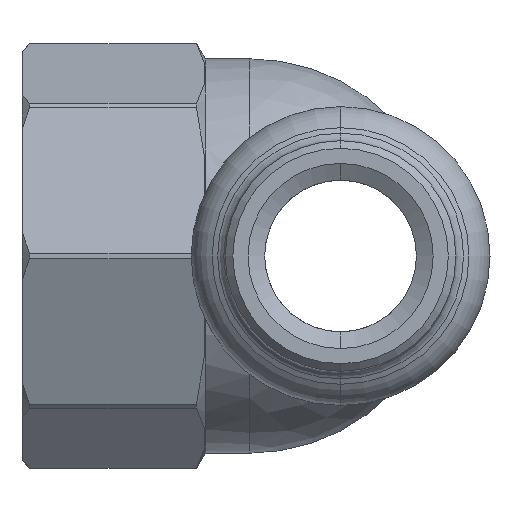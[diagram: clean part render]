
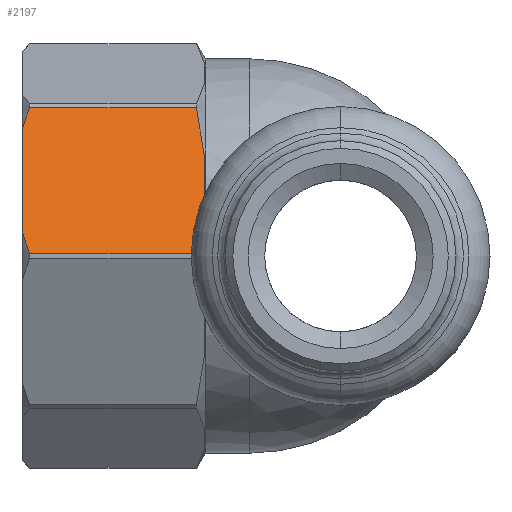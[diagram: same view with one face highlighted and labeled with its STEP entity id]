
A CAD part, left-side view. The second image highlights one B-rep face of the part: STEP entity #2197.
In plain terms, the highlighted planar face has unit normal (-0.924, 0, 0.383).
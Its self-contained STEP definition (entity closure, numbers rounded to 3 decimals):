
#10 = VERTEX_POINT ( 'NONE', #1464 ) ;
#100 = ORIENTED_EDGE ( 'NONE', *, *, #4082, .F. ) ;
#170 = EDGE_CURVE ( 'NONE', #10, #3897, #2573, .T. ) ;
#336 = VERTEX_POINT ( 'NONE', #4085 ) ;
#509 = VECTOR ( 'NONE', #3282, 1000. ) ;
#605 = CARTESIAN_POINT ( 'NONE',  ( -10.022, -3.792, 9.776 ) ) ;
#771 = VECTOR ( 'NONE', #4598, 1000. ) ;
#795 = CARTESIAN_POINT ( 'NONE',  ( -14.071, 29., 0. ) ) ;
#890 = DIRECTION ( 'NONE',  ( 0.924, 0., -0.383 ) ) ;
#905 = DIRECTION ( 'NONE',  ( -0.383, 0., -0.924 ) ) ;
#1103 = CARTESIAN_POINT ( 'NONE',  ( -10.617, 21., 8.338 ) ) ;
#1111 = VERTEX_POINT ( 'NONE', #4037 ) ;
#1115 = DIRECTION ( 'NONE',  ( 0., 1., 0. ) ) ;
#1188 = CARTESIAN_POINT ( 'NONE',  ( -12.727, 9., 3.246 ) ) ;
#1236 = ORIENTED_EDGE ( 'NONE', *, *, #2414, .T. ) ;
#1384 = B_SPLINE_CURVE_WITH_KNOTS ( 'NONE', 3,
 ( #2594, #5639, #3892, #1188 ),
 .UNSPECIFIED., .F., .F.,
 ( 4, 4 ),
 ( 0.008, 0.011 ),
 .UNSPECIFIED. ) ;
#1464 = CARTESIAN_POINT ( 'NONE',  ( -13.999, 20.5, 0.174 ) ) ;
#1510 = CARTESIAN_POINT ( 'NONE',  ( -10.022, 20.5, 9.776 ) ) ;
#1596 = LINE ( 'NONE', #605, #3675 ) ;
#1623 = VERTEX_POINT ( 'NONE', #2539 ) ;
#1680 = CARTESIAN_POINT ( 'NONE',  ( -14.071, 21., 0. ) ) ;
#1695 = VERTEX_POINT ( 'NONE', #2053 ) ;
#1732 = DIRECTION ( 'NONE',  ( 0.383, 0., 0.924 ) ) ;
#1845 = PLANE ( 'NONE',  #2247 ) ;
#1875 = CARTESIAN_POINT ( 'NONE',  ( -10.022, 20.5, 9.776 ) ) ;
#1900 = EDGE_LOOP ( 'NONE', ( #1236, #4394, #2565, #3843, #2830, #5291, #100, #3548 ) ) ;
#1937 = CARTESIAN_POINT ( 'NONE',  ( -10.617, 21., 8.338 ) ) ;
#2053 = CARTESIAN_POINT ( 'NONE',  ( -10.022, 9.5, 9.776 ) ) ;
#2111 = CARTESIAN_POINT ( 'NONE',  ( -13.606, 20.857, 1.122 ) ) ;
#2175 = CARTESIAN_POINT ( 'NONE',  ( -10.022, 9.5, 9.776 ) ) ;
#2197 = ADVANCED_FACE ( 'NONE', ( #5577 ), #1845, .F. ) ;
#2247 = AXIS2_PLACEMENT_3D ( 'NONE', #795, #890, #905 ) ;
#2414 = EDGE_CURVE ( 'NONE', #10, #1111, #4177, .T. ) ;
#2539 = CARTESIAN_POINT ( 'NONE',  ( -12.727, 9., 3.246 ) ) ;
#2565 = ORIENTED_EDGE ( 'NONE', *, *, #4212, .T. ) ;
#2573 = B_SPLINE_CURVE_WITH_KNOTS ( 'NONE', 3,
 ( #4698, #5120, #2111, #4948 ),
 .UNSPECIFIED., .F., .F.,
 ( 4, 4 ),
 ( 0.008, 0.01 ),
 .UNSPECIFIED. ) ;
#2594 = CARTESIAN_POINT ( 'NONE',  ( -13.999, 9.5, 0.174 ) ) ;
#2727 = B_SPLINE_CURVE_WITH_KNOTS ( 'NONE', 3,
 ( #3012, #3700, #3392, #2175 ),
 .UNSPECIFIED., .F., .F.,
 ( 4, 4 ),
 ( 0.015, 0.018 ),
 .UNSPECIFIED. ) ;
#2758 = CARTESIAN_POINT ( 'NONE',  ( -10.416, 20.858, 8.825 ) ) ;
#2781 = CARTESIAN_POINT ( 'NONE',  ( -10.217, 20.689, 9.304 ) ) ;
#2830 = ORIENTED_EDGE ( 'NONE', *, *, #5651, .T. ) ;
#3012 = CARTESIAN_POINT ( 'NONE',  ( -11.294, 9., 6.704 ) ) ;
#3203 = EDGE_CURVE ( 'NONE', #3694, #4034, #5029, .T. ) ;
#3282 = DIRECTION ( 'NONE',  ( 0., -1., 0. ) ) ;
#3302 = CARTESIAN_POINT ( 'NONE',  ( -13.999, -3.792, 0.174 ) ) ;
#3392 = CARTESIAN_POINT ( 'NONE',  ( -10.443, 9.264, 8.76 ) ) ;
#3489 = VECTOR ( 'NONE', #1732, 1000. ) ;
#3548 = ORIENTED_EDGE ( 'NONE', *, *, #170, .F. ) ;
#3675 = VECTOR ( 'NONE', #1115, 1000. ) ;
#3694 = VERTEX_POINT ( 'NONE', #1103 ) ;
#3700 = CARTESIAN_POINT ( 'NONE',  ( -10.867, 9.092, 7.736 ) ) ;
#3843 = ORIENTED_EDGE ( 'NONE', *, *, #5219, .T. ) ;
#3892 = CARTESIAN_POINT ( 'NONE',  ( -13.158, 9.093, 2.204 ) ) ;
#3897 = VERTEX_POINT ( 'NONE', #4331 ) ;
#4034 = VERTEX_POINT ( 'NONE', #1510 ) ;
#4037 = CARTESIAN_POINT ( 'NONE',  ( -13.999, 9.5, 0.174 ) ) ;
#4082 = EDGE_CURVE ( 'NONE', #3897, #3694, #4647, .T. ) ;
#4085 = CARTESIAN_POINT ( 'NONE',  ( -11.294, 9., 6.704 ) ) ;
#4177 = LINE ( 'NONE', #3302, #509 ) ;
#4212 = EDGE_CURVE ( 'NONE', #1623, #336, #4379, .T. ) ;
#4331 = CARTESIAN_POINT ( 'NONE',  ( -13.403, 21., 1.612 ) ) ;
#4379 = LINE ( 'NONE', #4775, #771 ) ;
#4394 = ORIENTED_EDGE ( 'NONE', *, *, #5582, .T. ) ;
#4598 = DIRECTION ( 'NONE',  ( 0.383, 0., 0.924 ) ) ;
#4647 = LINE ( 'NONE', #1680, #3489 ) ;
#4698 = CARTESIAN_POINT ( 'NONE',  ( -13.999, 20.5, 0.174 ) ) ;
#4775 = CARTESIAN_POINT ( 'NONE',  ( -14.071, 9., 0. ) ) ;
#4948 = CARTESIAN_POINT ( 'NONE',  ( -13.403, 21., 1.612 ) ) ;
#5029 = B_SPLINE_CURVE_WITH_KNOTS ( 'NONE', 3,
 ( #1937, #2758, #2781, #1875 ),
 .UNSPECIFIED., .F., .F.,
 ( 4, 4 ),
 ( 0.017, 0.019 ),
 .UNSPECIFIED. ) ;
#5120 = CARTESIAN_POINT ( 'NONE',  ( -13.804, 20.689, 0.644 ) ) ;
#5219 = EDGE_CURVE ( 'NONE', #336, #1695, #2727, .T. ) ;
#5291 = ORIENTED_EDGE ( 'NONE', *, *, #3203, .F. ) ;
#5577 = FACE_OUTER_BOUND ( 'NONE', #1900, .T. ) ;
#5582 = EDGE_CURVE ( 'NONE', #1111, #1623, #1384, .T. ) ;
#5639 = CARTESIAN_POINT ( 'NONE',  ( -13.581, 9.266, 1.182 ) ) ;
#5651 = EDGE_CURVE ( 'NONE', #1695, #4034, #1596, .T. ) ;
